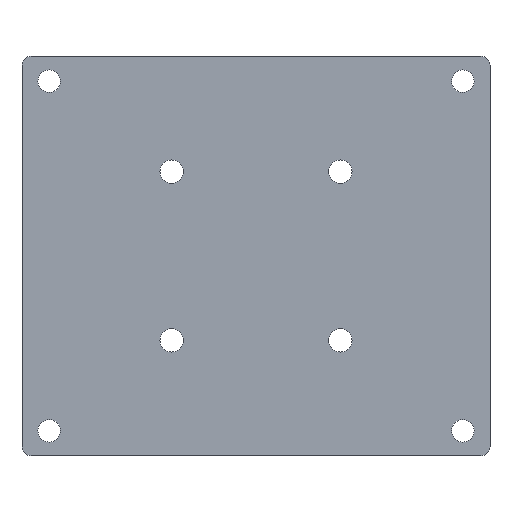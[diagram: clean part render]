
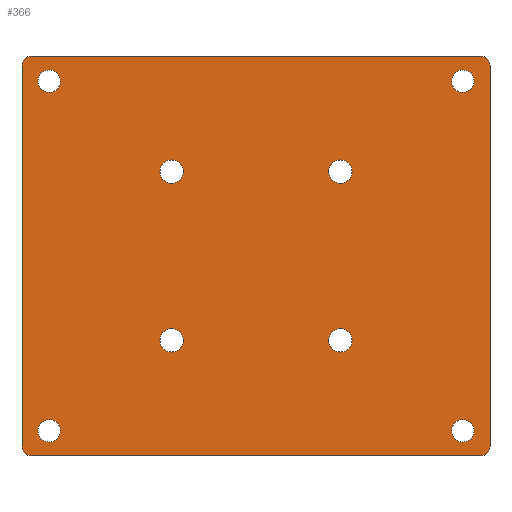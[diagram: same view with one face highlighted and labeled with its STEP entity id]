
A CAD part, front view. The second image highlights one B-rep face of the part: STEP entity #366.
In plain terms, the highlighted planar face has unit normal (0, -1, 0).
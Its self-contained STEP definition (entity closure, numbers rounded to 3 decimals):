
#23=FACE_BOUND('',#81,.T.);
#24=FACE_BOUND('',#82,.T.);
#25=FACE_BOUND('',#83,.T.);
#26=FACE_BOUND('',#84,.T.);
#27=FACE_BOUND('',#85,.T.);
#28=FACE_BOUND('',#86,.T.);
#29=FACE_BOUND('',#87,.T.);
#30=FACE_BOUND('',#88,.T.);
#36=PLANE('',#422);
#54=FACE_OUTER_BOUND('',#80,.T.);
#80=EDGE_LOOP('',(#321,#322,#323,#324,#325,#326,#327,#328));
#81=EDGE_LOOP('',(#329));
#82=EDGE_LOOP('',(#330));
#83=EDGE_LOOP('',(#331));
#84=EDGE_LOOP('',(#332));
#85=EDGE_LOOP('',(#333));
#86=EDGE_LOOP('',(#334));
#87=EDGE_LOOP('',(#335));
#88=EDGE_LOOP('',(#336));
#97=LINE('',#585,#121);
#102=LINE('',#599,#126);
#106=LINE('',#611,#130);
#110=LINE('',#623,#134);
#121=VECTOR('',#483,10.);
#126=VECTOR('',#496,10.);
#130=VECTOR('',#508,10.);
#134=VECTOR('',#520,10.);
#138=CIRCLE('',#383,1.588);
#140=CIRCLE('',#386,1.588);
#142=CIRCLE('',#389,1.588);
#144=CIRCLE('',#392,1.588);
#146=CIRCLE('',#395,1.651);
#148=CIRCLE('',#398,1.651);
#150=CIRCLE('',#401,1.651);
#152=CIRCLE('',#404,1.651);
#153=CIRCLE('',#407,1.27);
#155=CIRCLE('',#411,1.27);
#157=CIRCLE('',#415,1.27);
#159=CIRCLE('',#419,1.27);
#162=VERTEX_POINT('',#537);
#164=VERTEX_POINT('',#543);
#166=VERTEX_POINT('',#549);
#168=VERTEX_POINT('',#555);
#170=VERTEX_POINT('',#561);
#172=VERTEX_POINT('',#567);
#174=VERTEX_POINT('',#573);
#176=VERTEX_POINT('',#579);
#177=VERTEX_POINT('',#583);
#178=VERTEX_POINT('',#584);
#181=VERTEX_POINT('',#592);
#183=VERTEX_POINT('',#598);
#185=VERTEX_POINT('',#604);
#187=VERTEX_POINT('',#610);
#189=VERTEX_POINT('',#616);
#191=VERTEX_POINT('',#622);
#195=EDGE_CURVE('',#162,#162,#138,.T.);
#198=EDGE_CURVE('',#164,#164,#140,.T.);
#201=EDGE_CURVE('',#166,#166,#142,.T.);
#204=EDGE_CURVE('',#168,#168,#144,.T.);
#207=EDGE_CURVE('',#170,#170,#146,.T.);
#210=EDGE_CURVE('',#172,#172,#148,.T.);
#213=EDGE_CURVE('',#174,#174,#150,.T.);
#216=EDGE_CURVE('',#176,#176,#152,.T.);
#217=EDGE_CURVE('',#177,#178,#97,.T.);
#221=EDGE_CURVE('',#181,#178,#153,.T.);
#224=EDGE_CURVE('',#181,#183,#102,.T.);
#227=EDGE_CURVE('',#185,#183,#155,.T.);
#230=EDGE_CURVE('',#185,#187,#106,.T.);
#233=EDGE_CURVE('',#189,#187,#157,.T.);
#236=EDGE_CURVE('',#189,#191,#110,.T.);
#239=EDGE_CURVE('',#177,#191,#159,.T.);
#321=ORIENTED_EDGE('',*,*,#239,.F.);
#322=ORIENTED_EDGE('',*,*,#217,.T.);
#323=ORIENTED_EDGE('',*,*,#221,.F.);
#324=ORIENTED_EDGE('',*,*,#224,.T.);
#325=ORIENTED_EDGE('',*,*,#227,.F.);
#326=ORIENTED_EDGE('',*,*,#230,.T.);
#327=ORIENTED_EDGE('',*,*,#233,.F.);
#328=ORIENTED_EDGE('',*,*,#236,.T.);
#329=ORIENTED_EDGE('',*,*,#216,.F.);
#330=ORIENTED_EDGE('',*,*,#213,.F.);
#331=ORIENTED_EDGE('',*,*,#210,.F.);
#332=ORIENTED_EDGE('',*,*,#207,.F.);
#333=ORIENTED_EDGE('',*,*,#204,.F.);
#334=ORIENTED_EDGE('',*,*,#201,.F.);
#335=ORIENTED_EDGE('',*,*,#198,.F.);
#336=ORIENTED_EDGE('',*,*,#195,.F.);
#366=ADVANCED_FACE('',(#54,#23,#24,#25,#26,#27,#28,#29,#30),#36,.F.);
#383=AXIS2_PLACEMENT_3D('',#539,#430,#431);
#386=AXIS2_PLACEMENT_3D('',#545,#437,#438);
#389=AXIS2_PLACEMENT_3D('',#551,#444,#445);
#392=AXIS2_PLACEMENT_3D('',#557,#451,#452);
#395=AXIS2_PLACEMENT_3D('',#563,#458,#459);
#398=AXIS2_PLACEMENT_3D('',#569,#465,#466);
#401=AXIS2_PLACEMENT_3D('',#575,#472,#473);
#404=AXIS2_PLACEMENT_3D('',#581,#479,#480);
#407=AXIS2_PLACEMENT_3D('',#593,#489,#490);
#411=AXIS2_PLACEMENT_3D('',#605,#501,#502);
#415=AXIS2_PLACEMENT_3D('',#617,#513,#514);
#419=AXIS2_PLACEMENT_3D('',#628,#525,#526);
#422=AXIS2_PLACEMENT_3D('',#631,#531,#532);
#430=DIRECTION('center_axis',(0.,-1.,0.));
#431=DIRECTION('ref_axis',(1.,0.,0.));
#437=DIRECTION('center_axis',(0.,-1.,0.));
#438=DIRECTION('ref_axis',(1.,0.,0.));
#444=DIRECTION('center_axis',(0.,-1.,0.));
#445=DIRECTION('ref_axis',(1.,0.,0.));
#451=DIRECTION('center_axis',(0.,-1.,0.));
#452=DIRECTION('ref_axis',(1.,0.,0.));
#458=DIRECTION('center_axis',(0.,-1.,0.));
#459=DIRECTION('ref_axis',(1.,0.,0.));
#465=DIRECTION('center_axis',(0.,-1.,0.));
#466=DIRECTION('ref_axis',(1.,0.,0.));
#472=DIRECTION('center_axis',(0.,-1.,0.));
#473=DIRECTION('ref_axis',(1.,0.,0.));
#479=DIRECTION('center_axis',(0.,-1.,0.));
#480=DIRECTION('ref_axis',(1.,0.,0.));
#483=DIRECTION('',(1.,0.,0.));
#489=DIRECTION('center_axis',(0.,1.,0.));
#490=DIRECTION('ref_axis',(1.,0.,0.));
#496=DIRECTION('',(0.,0.,1.));
#501=DIRECTION('center_axis',(0.,1.,0.));
#502=DIRECTION('ref_axis',(0.,0.,1.));
#508=DIRECTION('',(-1.,0.,0.));
#513=DIRECTION('center_axis',(0.,1.,0.));
#514=DIRECTION('ref_axis',(-1.,0.,0.));
#520=DIRECTION('',(0.,0.,-1.));
#525=DIRECTION('center_axis',(0.,1.,0.));
#526=DIRECTION('ref_axis',(0.,0.,-1.));
#531=DIRECTION('center_axis',(0.,1.,0.));
#532=DIRECTION('ref_axis',(1.,0.,0.));
#537=CARTESIAN_POINT('',(-30.582,0.,-24.511));
#539=CARTESIAN_POINT('Origin',(-28.994,0.,-24.511));
#543=CARTESIAN_POINT('',(27.407,0.,-24.511));
#545=CARTESIAN_POINT('Origin',(28.994,0.,-24.511));
#549=CARTESIAN_POINT('',(27.407,0.,24.511));
#551=CARTESIAN_POINT('Origin',(28.994,0.,24.511));
#555=CARTESIAN_POINT('',(-30.582,0.,24.511));
#557=CARTESIAN_POINT('Origin',(-28.994,0.,24.511));
#561=CARTESIAN_POINT('',(-13.462,0.,-11.811));
#563=CARTESIAN_POINT('Origin',(-11.811,0.,-11.811));
#567=CARTESIAN_POINT('',(10.16,0.,-11.811));
#569=CARTESIAN_POINT('Origin',(11.811,0.,-11.811));
#573=CARTESIAN_POINT('',(-13.462,0.,11.811));
#575=CARTESIAN_POINT('Origin',(-11.811,0.,11.811));
#579=CARTESIAN_POINT('',(10.16,0.,11.811));
#581=CARTESIAN_POINT('Origin',(11.811,0.,11.811));
#583=CARTESIAN_POINT('',(-31.534,0.,-28.016));
#584=CARTESIAN_POINT('',(31.534,0.,-28.016));
#585=CARTESIAN_POINT('',(-31.534,0.,-28.016));
#592=CARTESIAN_POINT('',(32.804,0.,-26.746));
#593=CARTESIAN_POINT('Origin',(31.534,0.,-26.746));
#598=CARTESIAN_POINT('',(32.804,0.,26.746));
#599=CARTESIAN_POINT('',(32.804,0.,-26.746));
#604=CARTESIAN_POINT('',(31.534,0.,28.016));
#605=CARTESIAN_POINT('Origin',(31.534,0.,26.746));
#610=CARTESIAN_POINT('',(-31.534,0.,28.016));
#611=CARTESIAN_POINT('',(31.534,0.,28.016));
#616=CARTESIAN_POINT('',(-32.804,0.,26.746));
#617=CARTESIAN_POINT('Origin',(-31.534,0.,26.746));
#622=CARTESIAN_POINT('',(-32.804,0.,-26.746));
#623=CARTESIAN_POINT('',(-32.804,0.,26.746));
#628=CARTESIAN_POINT('Origin',(-31.534,0.,-26.746));
#631=CARTESIAN_POINT('Origin',(0.,0.,0.));
